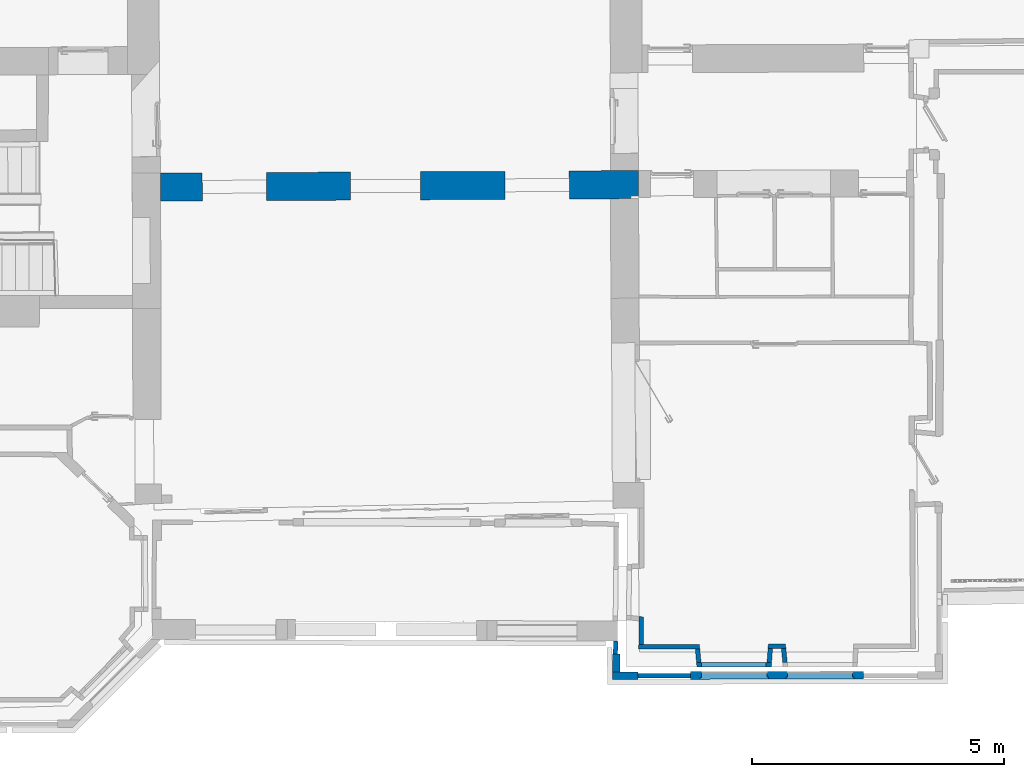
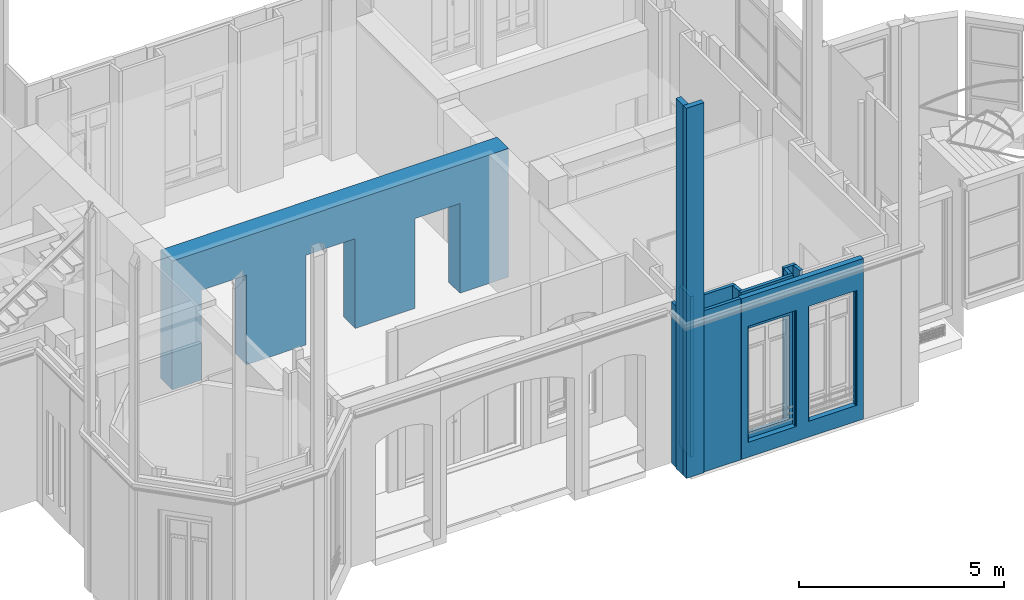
# One storey, part 12 of 97: 13 walls, 6 openings.
"""IFC2X3 building model written with IfcOpenShell, lengths in centimetres."""

from ifc_helpers import new_model, entity, si_unit, converted_unit, direction, frame, origin, origin_with_axes, place, context, subcontext, project, spatial, polyline, outline, extrude, clip, bounded_halfspace, faceted_brep, shape, material, layer, layer_set, layer_usage, type_object, element, save


model = new_model("IFC2X3")

# Units and contexts
model_context = context("Model", 3, precision=0.0001, world=origin(), true_north=direction((0.225632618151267, 0.974212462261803, 0.0)))
body_context = subcontext(model_context, "Body", "Model", "MODEL_VIEW")
footprint_context = subcontext(model_context, "FootPrint", "Model", "MODEL_VIEW")
profile_context = subcontext(model_context, "Profile", "Model", "MODEL_VIEW")
ifc_project = project(units=[si_unit("LENGTHUNIT", "METRE", prefix="CENTI"), si_unit("AREAUNIT", "SQUARE_METRE", prefix="CENTI"), si_unit("VOLUMEUNIT", "CUBIC_METRE", prefix="CENTI"), converted_unit("PLANEANGLEUNIT", "DEGREE", entity("IfcRatioMeasure", 0.0174532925), si_unit("PLANEANGLEUNIT", "RADIAN"), dimensions=[0, 0, 0, 0, 0, 0, 0])], contexts=[model_context])

# Site, building, storey
site_placement = place(None, origin_with_axes())
site = spatial("IfcSite", under=ifc_project, at=site_placement, Name="Default Site", CompositionType="ELEMENT")
building_placement = place(site_placement, origin_with_axes())
building = spatial("IfcBuilding", under=site, at=building_placement, Name="Default Building", CompositionType="ELEMENT")
storey_placement = place(building_placement, origin_with_axes())
storey = spatial("IfcBuildingStorey", under=building, at=storey_placement, Name="Rez-de-chaussée", CompositionType="ELEMENT", Elevation=0.0)

# Wall, opening
ifc_material = material(Name="<aucun>")
ifc_layer_1 = layer(ifc_material, 9.0)
ifc_layer_set_1 = layer_set([ifc_layer_1], Name="default")
ifc_layer_usage_1 = layer_usage(ifc_layer_set_1, "AXIS2", "POSITIVE", -4.5)
wall_type_1 = type_object("IfcWallType", Name="default 90", PredefinedType="NOTDEFINED", material=ifc_layer_set_1)
wall_1_placement = place(storey_placement, frame((411.196494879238, -1020.73846299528, 0.0128503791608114), z_axis=(0.0, 0.0, 1.0), x_axis=(0.999999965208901, 0.000263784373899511, 0.0)))
wall_1 = element("IfcWallStandardCase", 1, at=wall_1_placement, inside=storey, type_object=wall_type_1, material=ifc_layer_usage_1, Name="Enveloppe 768435", context=body_context, shape_type="SweptSolid", body=[
    extrude(outline(polyline([(-4.87621051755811, 3.81736189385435), (-4.09920490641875, -4.49999999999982), (143.535233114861, -4.50000000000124), (144.15018441, 3.8380241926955), (135.174562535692, 4.49999999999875), (2.43100603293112, 4.50044004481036), (-4.87621051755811, 3.81736189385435)])), frame((0.0, 0.0, -2.71050543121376e-18), z_axis=(0.0, 0.0, 1.0), x_axis=(1.0, 0.0, 0.0)), (0.0, 0.0, 1.0), 477.795358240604),
])
opening_1_placement = place(wall_1_placement, frame((5.34689146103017, 0.0, 54.0313409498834), z_axis=(0.0, 0.0, 1.0), x_axis=(1.0, -9.8671613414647e-15, 0.0)))
cartesian_point_1 = entity("IfcCartesianPoint", [8.88178419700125e-14, 0.0, 309.0])
cartesian_point_2 = entity("IfcCartesianPoint", [127.567440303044, 4.49999999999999])
element("IfcOpeningElement", 2, at=opening_1_placement, cuts=wall_1, Name="4294966461_11", ObjectType="Opening", shapes=[
    shape(body_context, "Body", "SweptSolid", [extrude(outline(polyline([(0.0, 309.0), (0.0, 0.0), (127.567440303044, 0.0), (127.567440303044, 309.0), (0.0, 309.0)])), frame((0.0, 14.5, 0.0), z_axis=(0.0, -1.0, 0.0), x_axis=(1.0, 0.0, 0.0)), (0.0, 0.0, 1.0), 29.0)]),
    shape(profile_context, "Profile", "GeometricCurveSet", [entity("IfcGeometricCurveSet", [entity("IfcPolyline", [cartesian_point_1, entity("IfcCartesianPoint", [8.88178419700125e-14, 0.0, 0.0]), entity("IfcCartesianPoint", [127.567440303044, 0.0, 0.0]), entity("IfcCartesianPoint", [127.567440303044, 0.0, 309.0]), cartesian_point_1])])]),
    shape(footprint_context, "FootPrint", "GeometricCurveSet", [entity("IfcGeometricCurveSet", [entity("IfcPolyline", [cartesian_point_2, entity("IfcCartesianPoint", [0.0, 4.49999999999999]), entity("IfcCartesianPoint", [1.77635683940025e-13, -4.49999999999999]), entity("IfcCartesianPoint", [127.567440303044, -4.49999999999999]), cartesian_point_2])])]),
])

# Walls
ifc_layer_usage_2 = layer_usage(ifc_layer_set_1, "AXIS2", "POSITIVE", -4.5)
wall_2_placement = place(storey_placement, frame((295.921035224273, -980.182738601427, 0.0128503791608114), z_axis=(0.0, 0.0, 1.0), x_axis=(0.00566162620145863, 0.999983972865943, 0.0)))
element("IfcWallStandardCase", 3, at=wall_2_placement, inside=storey, type_object=wall_type_1, material=ifc_layer_usage_2, Name="Enveloppe 768826", context=body_context, shape_type="SweptSolid", body=[
    extrude(outline(polyline([(-0.0498799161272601, 4.4999999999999), (-4.18016892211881e-06, -4.50000000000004), (54.4047484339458, -4.49999999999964), (55.4052369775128, 4.50000000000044), (-0.0498799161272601, 4.4999999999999)])), origin_with_axes(), (0.0, 0.0, 1.0), 477.795358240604),
])
ifc_layer_usage_3 = layer_usage(ifc_layer_set_1, "AXIS2", "POSITIVE", -4.5)
wall_3_placement = place(storey_placement, frame((582.191625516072, -1016.64285464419, 0.0128503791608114), z_axis=(0.0, 0.0, 1.0), x_axis=(-0.100150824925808, 0.994972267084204, 0.0)))
element("IfcWallStandardCase", 4, at=wall_3_placement, inside=storey, type_object=wall_type_1, material=ifc_layer_usage_3, Name="Enveloppe 768249", context=body_context, shape_type="SweptSolid", body=[
    extrude(outline(polyline([(28.6324180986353, 4.50000000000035), (0.903514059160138, 4.49999999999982), (1.77635683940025e-13, -4.49999999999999), (27.7149950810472, -4.49999999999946), (28.6324180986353, 4.50000000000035)])), frame((0.0, 0.0, 2.71050543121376e-18), z_axis=(0.0, 0.0, 1.0), x_axis=(1.0, 0.0, 0.0)), (0.0, 0.0, 1.0), 477.795358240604),
])
ifc_layer_usage_4 = layer_usage(ifc_layer_set_1, "AXIS2", "POSITIVE", -4.5)
wall_4_placement = place(storey_placement, frame((550.857763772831, -1016.53261029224, 0.0128503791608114), z_axis=(0.0, 0.0, 1.0), x_axis=(0.0732897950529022, 0.997310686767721, 0.0)))
element("IfcWallStandardCase", 5, at=wall_4_placement, inside=storey, type_object=wall_type_1, material=ifc_layer_usage_4, Name="Enveloppe 768434", context=body_context, shape_type="SweptSolid", body=[
    extrude(outline(polyline([(0.0, 4.4999999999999), (1.77635683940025e-13, -4.50000000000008), (28.355657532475, -4.50000000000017), (27.705725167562, 4.4999999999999), (0.0, 4.4999999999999)])), origin_with_axes(), (0.0, 0.0, 1.0), 477.795358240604),
])
ifc_layer_usage_5 = layer_usage(ifc_layer_set_1, "AXIS2", "POSITIVE", -4.5)
wall_5_placement = place(storey_placement, frame((410.799658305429, -1016.50263939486, 0.0128503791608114), z_axis=(0.0, 0.0, 1.0), x_axis=(-0.0932773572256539, 0.995640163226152, 0.0)))
element("IfcWallStandardCase", 6, at=wall_5_placement, inside=storey, type_object=wall_type_1, material=ifc_layer_usage_5, Name="Enveloppe 767814", context=body_context, shape_type="SweptSolid", body=[
    extrude(outline(polyline([(27.8230786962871, 4.49999999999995), (-1.77635683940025e-13, 4.49999999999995), (0.000438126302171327, -2.83907414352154), (-0.155167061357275, -4.49999999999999), (26.9798969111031, -4.50010115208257), (27.8230786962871, 4.49999999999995)])), origin_with_axes(), (0.0, 0.0, 1.0), 477.795358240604),
])
ifc_layer_usage_6 = layer_usage(ifc_layer_set_1, "AXIS2", "POSITIVE", -4.5)
wall_6_placement = place(storey_placement, frame((575.83811399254, -984.106322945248, 0.0128503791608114), z_axis=(0.0, 0.0, 1.0), x_axis=(-0.999999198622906, 0.00126599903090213, 0.0)))
element("IfcWallStandardCase", 7, at=wall_6_placement, inside=storey, type_object=wall_type_1, material=ifc_layer_usage_6, Name="Enveloppe 768034", context=body_context, shape_type="SweptSolid", body=[
    extrude(outline(polyline([(27.4320263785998, 4.49999999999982), (-8.06091056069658, 4.49999999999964), (-7.14348754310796, -4.50000000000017), (26.7820940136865, -4.50000000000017), (27.4320263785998, 4.49999999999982)])), frame((0.0, 0.0, -2.71050543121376e-18), z_axis=(0.0, 0.0, 1.0), x_axis=(1.0, 0.0, 0.0)), (0.0, 0.0, 1.0), 477.795358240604),
])
ifc_layer_usage_7 = layer_usage(ifc_layer_set_1, "AXIS2", "POSITIVE", -4.5)
wall_7_placement = place(storey_placement, frame((412.090234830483, -984.721616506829, 0.0128503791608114), z_axis=(0.0, 0.0, 1.0), x_axis=(-0.999999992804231, 0.000119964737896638, 0.0)))
element("IfcWallStandardCase", 8, at=wall_7_placement, inside=storey, type_object=wall_type_1, material=ifc_layer_usage_7, Name="Enveloppe 767345", context=body_context, shape_type="SweptSolid", body=[
    extrude(outline(polyline([(120.719826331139, 4.50000000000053), (-0.673831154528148, 4.49891557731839), (0.17043019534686, -4.49999999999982), (120.669950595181, -4.49999999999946), (120.719826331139, 4.50000000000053)])), frame((0.0, 0.0, -2.71050543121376e-18), z_axis=(0.0, 0.0, 1.0), x_axis=(1.0, 0.0, 0.0)), (0.0, 0.0, 1.0), 477.795358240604),
])
ifc_layer_usage_8 = layer_usage(ifc_layer_set_1, "AXIS2", "POSITIVE", -4.5)
wall_8_placement = place(storey_placement, frame((245.047610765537, -999.445140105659, -1.99999999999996), z_axis=(0.0, 0.0, 1.0), x_axis=(0.0184265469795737, 0.999830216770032, 0.0)))
element("IfcWallStandardCase", 9, at=wall_8_placement, inside=storey, type_object=wall_type_1, material=ifc_layer_usage_8, Name="Enveloppe 364413", context=body_context, shape_type="Clipping", body=[
    clip(extrude(outline(polyline([(0.208801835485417, 4.49999999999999), (0.401087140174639, -4.50000000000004), (25.4028281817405, -4.49999999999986), (25.4028281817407, -3.39544561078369), (25.5112344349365, -3.39344771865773), (25.4028281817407, 4.50000000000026), (0.208801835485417, 4.49999999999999)])), origin_with_axes(), (0.0, 0.0, 1.0), 479.808208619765), bounded_halfspace(frame((25.5112587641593, -3.39476782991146, 2.01285037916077), z_axis=(0.0, 0.0, 1.0), x_axis=(-0.999980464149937, -0.00625070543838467, 0.0)), True, frame((25.5112587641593, -3.39476782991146, 2.01285037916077), z_axis=(0.0, 0.0, 1.0), x_axis=(1.0, 0.0, 0.0)), polyline([(-0.108430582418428, -0.00067778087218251), (-0.108430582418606, 7.89476782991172), (1.77635683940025e-13, 4.44089209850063e-14), (-0.108430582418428, -0.00067778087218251)]))),
])
ifc_layer_usage_9 = layer_usage(ifc_layer_set_1, "AXIS2", "POSITIVE", -4.5)
wall_9_placement = place(storey_placement, frame((289.44872670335, -1043.06089597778, -1.99999999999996), z_axis=(0.0, 0.0, 1.0), x_axis=(0.99999978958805, 0.000648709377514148, 0.0)))
element("IfcWallStandardCase", 10, at=wall_9_placement, inside=storey, type_object=wall_type_1, material=ifc_layer_usage_9, Name="Enveloppe 364456", context=body_context, shape_type="Clipping", body=[
    clip(extrude(outline(polyline([(0.0558761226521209, 4.50006487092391), (0.066720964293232, -4.49994216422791), (104.453988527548, -4.50000000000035), (104.443143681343, 4.49999999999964), (0.0558761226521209, 4.50006487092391)])), frame((0.0, 0.0, -3.46944695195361e-16), z_axis=(0.0, 0.0, 1.0), x_axis=(1.0, 0.0, 0.0)), (0.0, 0.0, 1.0), 479.808208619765), bounded_halfspace(frame((104.453988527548, -4.50000000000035, 2.01285037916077), z_axis=(0.0, 0.0, 1.0), x_axis=(-1.0, -6.29054317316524e-13, 0.0)), True, frame((104.453988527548, -4.50000000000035, 2.01285037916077), z_axis=(0.0, 0.0, 1.0), x_axis=(1.0, 0.0, 0.0)), polyline([(-0.0108448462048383, -1.77635683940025e-13), (-0.0108448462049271, 8.99999999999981), (4.44089209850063e-14, -1.77635683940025e-13), (-0.0108448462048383, -1.77635683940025e-13)]))),
])

# Wall, openings
ifc_layer_2 = layer(ifc_material, 15.0)
ifc_layer_set_2 = layer_set([ifc_layer_2], Name="default")
ifc_layer_usage_10 = layer_usage(ifc_layer_set_2, "AXIS2", "POSITIVE", -7.5)
wall_type_2 = type_object("IfcWallType", Name="default 150", PredefinedType="NOTDEFINED", material=ifc_layer_set_2)
wall_10_placement = place(storey_placement, frame((393.895752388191, -1042.17399512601, 0.0128503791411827), z_axis=(0.0, 0.0, 1.0), x_axis=(0.999998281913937, 0.00185369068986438, 0.0)))
wall_10 = element("IfcWallStandardCase", 11, at=wall_10_placement, inside=storey, type_object=wall_type_2, material=ifc_layer_usage_10, Name="Enveloppe 365506", context=body_context, shape_type="SweptSolid", body=[
    extrude(outline(polyline([(0.0, 7.49999999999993), (4.44089209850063e-14, -7.49999999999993), (344.030799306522, -7.49999999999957), (344.030799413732, -5.7336421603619), (344.119954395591, -5.73380742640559), (344.130799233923, 3.26618603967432), (344.030799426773, 3.26637140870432), (344.030799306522, 7.50000000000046), (0.0, 7.49999999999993)])), frame((0.0, 0.0, 1.96287457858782e-11), z_axis=(0.0, 0.0, 1.0), x_axis=(1.0, 0.0, 0.0)), (0.0, 0.0, 1.0), 477.795358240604),
])
opening_2_placement = place(wall_10_placement, frame((189.786993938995, 4.54747350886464e-13, 47.157276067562), z_axis=(0.0, 0.0, 1.0), x_axis=(-1.0, -1.22818422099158e-15, 0.0)))
cartesian_point_3 = entity("IfcCartesianPoint", [0.0, 1.77635683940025e-13, 342.067063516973])
cartesian_point_4 = entity("IfcCartesianPoint", [-135.922860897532, -7.49999999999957])
element("IfcOpeningElement", 12, at=opening_2_placement, cuts=wall_10, Name="Baie 379476", ObjectType="Opening", shapes=[
    shape(body_context, "Body", "Brep", [faceted_brep([(-3.00000254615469, -27.5000207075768, 342.067062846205), (-132.922854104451, -27.5000207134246, 342.067062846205), (-132.922854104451, -27.5000207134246, -8.56228976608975e-09), (-3.00000254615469, -27.5000207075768, -8.56228976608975e-09), (-1.89126596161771e-05, 27.4999677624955, -8.56228976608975e-09), (-135.922875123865, 27.4999677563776, -8.56228976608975e-09), (-135.922875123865, 27.4999677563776, 342.067062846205), (-1.89126596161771e-05, 27.4999677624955, 342.067062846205), (-3.00000254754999, 3.49997913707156, -8.56228976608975e-09), (-3.00000254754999, 3.49997913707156, 342.067062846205), (-2.99999701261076, 3.49997913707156, 342.067062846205), (-2.99999701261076, 3.49997913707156, -8.56228976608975e-09), (-1.84395823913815e-05, 3.49997913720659, -8.56228976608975e-09), (-1.84395823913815e-05, 3.49997913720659, 342.067062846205), (-1.84395823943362e-05, 3.50004478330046, 342.067062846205), (-1.84395823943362e-05, 3.50004478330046, -8.56228976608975e-09), (-1.84406626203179e-05, 27.4999677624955, -8.56228976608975e-09), (-1.84406626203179e-05, 27.4999677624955, 342.067062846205), (-132.922854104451, -27.4999866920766, -8.56228976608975e-09), (-132.922848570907, 3.50001315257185, -8.56228976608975e-09), (-135.922874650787, 3.50004296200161, -8.56228976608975e-09), (-135.922875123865, 27.4999659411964, -8.56228976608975e-09), (-132.922854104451, -27.4999866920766, 342.067062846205), (-132.922854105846, 3.50001315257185, 342.067062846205), (-132.922854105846, 3.50001315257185, -8.56228976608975e-09), (-132.922848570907, 3.50001315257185, 342.067062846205), (-135.922874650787, 3.50001315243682, 342.067062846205), (-135.922874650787, 3.50001315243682, -8.56228976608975e-09), (-135.922874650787, 3.50004296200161, 342.067062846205), (-135.922874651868, 27.4999659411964, 342.067062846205), (-135.922874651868, 27.4999659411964, -8.56228976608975e-09), (-135.922875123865, 27.4999659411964, 342.067062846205)], [[[0, 1, 2, 3]], [[4, 5, 6, 7]], [[0, 3, 8, 9]], [[10, 11, 12, 13]], [[14, 15, 16, 17]], [[3, 18, 19, 20, 21, 4, 15, 11]], [[18, 22, 23, 24]], [[19, 25, 26, 27]], [[20, 28, 29, 30]], [[10, 14, 7, 31, 28, 25, 22, 0]]])]),
    shape(profile_context, "Profile", "GeometricCurveSet", [entity("IfcGeometricCurveSet", [entity("IfcPolyline", [cartesian_point_3, entity("IfcCartesianPoint", [0.0, 1.77635683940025e-13, -5.55111512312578e-15]), entity("IfcCartesianPoint", [-135.922860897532, 1.77635683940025e-13, -5.55111512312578e-15]), entity("IfcCartesianPoint", [-135.922860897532, 1.77635683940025e-13, 342.067063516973]), cartesian_point_3])])]),
    shape(footprint_context, "FootPrint", "GeometricCurveSet", [entity("IfcGeometricCurveSet", [entity("IfcPolyline", [cartesian_point_4, entity("IfcCartesianPoint", [0.0, -7.49999999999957]), entity("IfcCartesianPoint", [-8.88178419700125e-14, 7.50000000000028]), entity("IfcCartesianPoint", [-135.922860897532, 7.50000000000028]), cartesian_point_4])])]),
])
opening_3_placement = place(wall_10_placement, frame((19.2917510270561, 0.0, 44.4614488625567), z_axis=(0.0, 0.0, 1.0), x_axis=(-1.0, -1.22818422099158e-15, 0.0)))
cartesian_point_5 = entity("IfcCartesianPoint", [-8.88178419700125e-14, 0.0, 345.200607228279])
cartesian_point_6 = entity("IfcCartesianPoint", [-136.420914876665, -7.49999999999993])
element("IfcOpeningElement", 13, at=opening_3_placement, cuts=wall_10, Name="Baie 379475", ObjectType="Opening", shapes=[
    shape(body_context, "Body", "Brep", [faceted_brep([(-3.00001463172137, -27.500018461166, 345.200602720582), (-133.420923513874, -27.5000184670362, 345.200602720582), (-133.420923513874, -27.5000184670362, -1.47978074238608e-06), (-3.00001463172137, -27.500018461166, -1.47978074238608e-06), (1.66854074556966e-05, 27.4999699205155, -1.47978074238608e-06), (-136.420896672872, 27.4999699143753, -1.47978074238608e-06), (-136.420896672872, 27.4999699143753, 345.200602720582), (1.66854074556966e-05, 27.4999699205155, 345.200602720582), (-3.00001463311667, 3.49998138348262, -1.47978074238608e-06), (-3.00001463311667, 3.49998138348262, 345.200602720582), (-3.00000909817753, 3.49998138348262, 345.200602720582), (-3.00000909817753, 3.49998138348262, -1.47978074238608e-06), (1.71584846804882e-05, 3.49998138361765, -1.47978074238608e-06), (1.71584846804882e-05, 3.49998138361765, 345.200602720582), (1.71584846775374e-05, 3.50004694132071, 345.200602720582), (1.71584846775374e-05, 3.50004694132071, -1.47978074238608e-06), (1.71574044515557e-05, 27.4999699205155, -1.47978074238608e-06), (1.71574044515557e-05, 27.4999699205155, 345.200602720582), (-133.420923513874, -27.50001487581, -1.47978074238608e-06), (-133.42091798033, 3.49998496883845, -1.47978074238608e-06), (-136.420896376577, 3.50001468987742, -1.47978074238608e-06), (-136.420896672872, 27.5000330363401, -1.47978074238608e-06), (-133.420923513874, -27.50001487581, 345.200602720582), (-133.42092351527, 3.49998496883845, 345.200602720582), (-133.42092351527, 3.49998496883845, -1.47978074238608e-06), (-133.42091798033, 3.49998496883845, 345.200602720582), (-136.420896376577, 3.49998496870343, 345.200602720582), (-136.420896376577, 3.49998496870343, -1.47978074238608e-06), (-136.420896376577, 3.50001468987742, 345.200602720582), (-136.420896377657, 27.5000330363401, 345.200602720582), (-136.420896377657, 27.5000330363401, -1.47978074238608e-06), (-136.420896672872, 27.5000330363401, 345.200602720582)], [[[0, 1, 2, 3]], [[4, 5, 6, 7]], [[0, 3, 8, 9]], [[10, 11, 12, 13]], [[14, 15, 16, 17]], [[3, 18, 19, 20, 21, 4, 15, 11]], [[18, 22, 23, 24]], [[19, 25, 26, 27]], [[20, 28, 29, 30]], [[10, 14, 7, 31, 28, 25, 22, 0]]])]),
    shape(profile_context, "Profile", "GeometricCurveSet", [entity("IfcGeometricCurveSet", [entity("IfcPolyline", [cartesian_point_5, entity("IfcCartesianPoint", [-8.88178419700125e-14, 0.0, 0.0]), entity("IfcCartesianPoint", [-136.420914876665, -1.77635683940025e-13, 0.0]), entity("IfcCartesianPoint", [-136.420914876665, -1.77635683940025e-13, 345.200607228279]), cartesian_point_5])])]),
    shape(footprint_context, "FootPrint", "GeometricCurveSet", [entity("IfcGeometricCurveSet", [entity("IfcPolyline", [cartesian_point_6, entity("IfcCartesianPoint", [-8.88178419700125e-14, -7.50000000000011]), entity("IfcCartesianPoint", [-8.88178419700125e-14, 7.49999999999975]), entity("IfcCartesianPoint", [-136.420914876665, 7.49999999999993]), cartesian_point_6])])]),
])

# Walls
ifc_layer_usage_11 = layer_usage(ifc_layer_set_2, "AXIS2", "POSITIVE", -7.5)
wall_11_placement = place(storey_placement, frame((238.860075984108, -1042.46138380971, -1.99999999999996), z_axis=(0.0, 0.0, 1.0), x_axis=(0.999998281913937, 0.0018536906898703, 0.0)))
element("IfcWallStandardCase", 14, at=wall_11_placement, inside=storey, type_object=wall_type_2, material=ifc_layer_usage_11, Name="Enveloppe 364581", context=body_context, shape_type="Clipping", body=[
    clip(extrude(outline(polyline([(0.000443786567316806, 7.49999999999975), (0.0166513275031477, -7.49999999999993), (50.6487509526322, -7.49999999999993), (50.6487510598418, -5.19330614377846), (50.7379060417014, -5.19347140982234), (50.7487508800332, 3.8065220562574), (50.6487510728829, 3.80670742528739), (50.6487509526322, 7.49999999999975), (0.000443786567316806, 7.49999999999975)])), origin_with_axes(), (0.0, 0.0, 1.0), 1100.91037418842), bounded_halfspace(frame((50.6487509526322, -5.19336397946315, 479.808208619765), z_axis=(0.0, 0.0, 1.0), x_axis=(6.8289558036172e-15, 1.0, 0.0)), True, frame((50.6487509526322, -5.19336397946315, 479.808208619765), z_axis=(0.0, 0.0, 1.0), x_axis=(1.0, 0.0, 0.0)), polyline([(0.0, 0.0), (1.33226762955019e-13, 9.0000065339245), (0.0999999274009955, 8.99988603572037), (0.0891550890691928, -0.000107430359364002), (0.0, 0.0)]))),
])
ifc_layer_usage_12 = layer_usage(ifc_layer_set_2, "AXIS2", "POSITIVE", -7.5)
wall_12_placement = place(storey_placement, frame((246.346584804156, -1034.93938944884, -1.99999999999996), z_axis=(0.0, 0.0, 1.0), x_axis=(-0.00293418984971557, 0.999995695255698, 0.0)))
element("IfcWallStandardCase", 15, at=wall_12_placement, inside=storey, type_object=wall_type_2, material=ifc_layer_usage_12, Name="Enveloppe 364866", context=body_context, shape_type="Clipping", body=[
    clip(clip(clip(clip(clip(extrude(outline(polyline([(35.8027828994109, 7.49999999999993), (-5.32907051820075e-13, 7.49999999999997), (-0.0162075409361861, -7.49999999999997), (35.8027828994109, -7.50000000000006), (35.8027828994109, -4.41979270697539), (36.0960029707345, 5.49843510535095), (35.8027828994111, 5.50799329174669), (35.8027828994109, 7.49999999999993)])), frame((0.0, 0.0, 3.46944695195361e-16), z_axis=(0.0, 0.0, 1.0), x_axis=(1.0, 0.0, 0.0)), (0.0, 0.0, 1.0), 1100.91037418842), bounded_halfspace(frame((36.0626595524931, 4.57645451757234, 479.808208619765), z_axis=(0.0, 0.0, 1.0), x_axis=(-0.0288751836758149, -0.999583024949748, 0.0)), True, frame((36.0626595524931, 4.57645451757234, 479.808208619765), z_axis=(0.0, 0.0, 1.0), x_axis=(1.0, 0.0, 0.0)), polyline([(-0.259876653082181, -7.88917352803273), (-0.259876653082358, 0.00750711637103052), (-1.77635683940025e-13, 4.44089209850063e-14), (-0.22791608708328, -7.88985636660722), (-0.259876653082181, -7.88917352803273)]))), bounded_halfspace(frame((35.8294208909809, -3.49765539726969, 479.808208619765), z_axis=(0.0, 0.0, 1.0), x_axis=(-0.0288751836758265, -0.999583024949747, 0.0)), True, frame((35.8294208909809, -3.49765539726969, 479.808208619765), z_axis=(0.0, 0.0, 1.0), x_axis=(1.0, 0.0, 0.0)), polyline([(-0.0266379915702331, -0.922137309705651), (-0.0266379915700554, 0.184936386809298), (0.00532257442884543, 0.184253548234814), (-0.0266379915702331, -0.922137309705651)]))), bounded_halfspace(frame((36.0960029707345, 5.49843510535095, 855.910374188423), z_axis=(0.0, 0.0, 1.0), x_axis=(-0.0325800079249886, -0.99946913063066, 0.0)), True, frame((36.0960029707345, 5.49843510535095, 855.910374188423), z_axis=(0.0, 0.0, 1.0), x_axis=(1.0, 0.0, 0.0)), polyline([(-0.293220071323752, -0.914473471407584), (-0.293220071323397, 0.00955818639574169), (-1.77635683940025e-13, 0.0), (-0.0333434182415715, -0.92198058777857), (-0.293220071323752, -0.914473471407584)]))), bounded_halfspace(frame((35.8027828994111, -3.49678707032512, 855.910374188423), z_axis=(0.0, 0.0, -1.0), x_axis=(0.999469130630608, -0.0325800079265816, 0.0)), True, frame((35.8027828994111, -3.49678707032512, 855.910374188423), z_axis=(0.0, 0.0, 1.0), x_axis=(1.0, 0.0, 0.0)), polyline([(0.0, 0.0), (0.0266379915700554, -0.00086832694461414), (0.234265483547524, 7.18665016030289), (0.0, 0.0)]))), bounded_halfspace(frame((35.8027828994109, -4.41979270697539, 855.910374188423), z_axis=(0.0, 0.0, -1.0), x_axis=(0.0288751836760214, 0.999583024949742, 0.0)), True, frame((35.8027828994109, -4.41979270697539, 855.910374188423), z_axis=(0.0, 0.0, 1.0), x_axis=(1.0, 0.0, 0.0)), polyline([(-1.77635683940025e-13, 4.44089209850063e-14), (0.0266379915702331, 0.922137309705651), (1.77635683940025e-13, 0.923005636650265), (-1.77635683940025e-13, 4.44089209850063e-14)]))),
])

# Wall, openings
ifc_layer_3 = layer(ifc_material, 55.8431457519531)
ifc_layer_set_3 = layer_set([ifc_layer_3], Name="default")
ifc_layer_usage_13 = layer_usage(ifc_layer_set_3, "AXIS2", "POSITIVE", -27.922)
wall_type_3 = type_object("IfcWallType", Name="default 558.431457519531", PredefinedType="NOTDEFINED", material=ifc_layer_set_3)
wall_13_placement = place(storey_placement, frame((-659.294938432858, -71.3772089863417, 0.0128503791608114), z_axis=(0.0, 0.0, 1.0), x_axis=(0.999985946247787, 0.00530163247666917, 0.0)))
wall_13 = element("IfcWallStandardCase", 16, at=wall_13_placement, inside=storey, type_object=wall_type_3, material=ifc_layer_usage_13, Name="Enveloppe 2756", context=body_context, shape_type="Clipping", body=[
    clip(clip(extrude(outline(polyline([(0.338657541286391, 27.9215723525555), (0.191635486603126, -27.9215723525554), (950.148808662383, -27.9215723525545), (950.146773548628, -25.2962195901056), (950.419547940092, -25.2976657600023), (950.653836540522, 27.9215723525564), (0.338657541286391, 27.9215723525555)])), frame((0.0, 0.0, -5.42101086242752e-18), z_axis=(0.0, 0.0, 1.0), x_axis=(1.0, 0.0, 0.0)), (0.0, 0.0, 1.0), 382.495358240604), bounded_halfspace(frame((950.419547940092, -25.2976657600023, 277.995358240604), z_axis=(0.0, 0.0, -1.0), x_axis=(0.00440228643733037, 0.999990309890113, 0.0)), True, frame((950.419547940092, -25.2976657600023, 277.995358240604), z_axis=(0.0, 0.0, 1.0), x_axis=(1.0, 0.0, 0.0)), polyline([(-0.292417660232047, 25.3213308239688), (-0.272775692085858, 0.00120084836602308), (1.77635683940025e-13, -1.11022302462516e-14), (0.23428860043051, 53.2192381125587), (-0.171422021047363, 53.2192381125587), (-0.165660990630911, 25.3214133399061), (-0.292417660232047, 25.3213308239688)]))), bounded_halfspace(frame((950.25388694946, 0.0237475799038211, 380.695358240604), z_axis=(0.0, 0.0, -1.0), x_axis=(-0.000206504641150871, 0.999999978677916, 0.0)), True, frame((950.25388694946, 0.0237475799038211, 380.695358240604), z_axis=(0.0, 0.0, 1.0), x_axis=(1.0, 0.0, 0.0)), polyline([(-0.148398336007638, 27.8978247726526), (-0.12675666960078, -8.25159373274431e-05), (3.5527136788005e-13, -1.11022302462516e-14), (-0.00576103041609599, 27.8978247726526), (-0.148398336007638, 27.8978247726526)]))),
])
opening_4_placement = place(wall_13_placement, frame((83.0885529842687, 8.5265128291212e-14, 1.27673913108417e-13), z_axis=(0.0, 0.0, 1.0), x_axis=(-1.0, -9.79251402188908e-16, 0.0)))
cartesian_point_7 = entity("IfcCartesianPoint", [0.0, 0.0, 267.0])
cartesian_point_8 = entity("IfcCartesianPoint", [-127.546644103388, -27.9215723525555])
element("IfcOpeningElement", 17, at=opening_4_placement, cuts=wall_13, Name="Baie 30037", ObjectType="Opening", shapes=[
    shape(body_context, "Body", "SweptSolid", [extrude(outline(polyline([(-8.88178419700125e-14, 267.0), (-8.88178419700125e-14, 0.0), (127.546644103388, 0.0), (127.546644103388, 267.0), (-8.88178419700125e-14, 267.0)])), frame((0.0, -37.9215723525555, 0.0), z_axis=(0.0, 1.0, 0.0), x_axis=(-1.0, 0.0, 0.0)), (0.0, 0.0, 1.0), 75.8431447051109)]),
    shape(profile_context, "Profile", "GeometricCurveSet", [entity("IfcGeometricCurveSet", [entity("IfcPolyline", [cartesian_point_7, entity("IfcCartesianPoint", [0.0, 0.0, 0.0]), entity("IfcCartesianPoint", [-127.546644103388, -1.11022302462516e-14, 0.0]), entity("IfcCartesianPoint", [-127.546644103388, -1.11022302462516e-14, 267.0]), cartesian_point_7])])]),
    shape(footprint_context, "FootPrint", "GeometricCurveSet", [entity("IfcGeometricCurveSet", [entity("IfcPolyline", [cartesian_point_8, entity("IfcCartesianPoint", [8.88178419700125e-14, -27.9215723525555]), entity("IfcCartesianPoint", [8.88178419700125e-14, 27.9215723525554]), entity("IfcCartesianPoint", [-127.546644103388, 27.9215723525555]), cartesian_point_8])])]),
])
opening_5_placement = place(wall_13_placement, frame((378.015609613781, 3.69482222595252e-13, 1.27673913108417e-13), z_axis=(0.0, 0.0, 1.0), x_axis=(-1.0, -9.79251402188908e-16, 0.0)))
cartesian_point_9 = entity("IfcCartesianPoint", [0.0, 0.0, 267.0])
cartesian_point_10 = entity("IfcCartesianPoint", [-139.135106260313, -27.9215723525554])
element("IfcOpeningElement", 18, at=opening_5_placement, cuts=wall_13, Name="Baie 30036", ObjectType="Opening", shapes=[
    shape(body_context, "Body", "SweptSolid", [extrude(outline(polyline([(0.0, 267.0), (0.0, 0.0), (139.135106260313, 0.0), (139.135106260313, 267.0), (0.0, 267.0)])), frame((0.0, -37.9215723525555, 0.0), z_axis=(0.0, 1.0, 0.0), x_axis=(-1.0, 0.0, 0.0)), (0.0, 0.0, 1.0), 75.8431447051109)]),
    shape(profile_context, "Profile", "GeometricCurveSet", [entity("IfcGeometricCurveSet", [entity("IfcPolyline", [cartesian_point_9, entity("IfcCartesianPoint", [0.0, 0.0, 0.0]), entity("IfcCartesianPoint", [-139.135106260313, 1.11022302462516e-14, 0.0]), entity("IfcCartesianPoint", [-139.135106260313, 1.11022302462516e-14, 267.0]), cartesian_point_9])])]),
    shape(footprint_context, "FootPrint", "GeometricCurveSet", [entity("IfcGeometricCurveSet", [entity("IfcPolyline", [cartesian_point_10, entity("IfcCartesianPoint", [0.0, -27.9215723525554]), entity("IfcCartesianPoint", [4.44089209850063e-14, 27.9215723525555]), entity("IfcCartesianPoint", [-139.135106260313, 27.9215723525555]), cartesian_point_10])])]),
])
opening_6_placement = place(wall_13_placement, frame((685.097637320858, 6.82121026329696e-13, 1.27673913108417e-13), z_axis=(0.0, 0.0, 1.0), x_axis=(-1.0, -9.79251402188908e-16, 0.0)))
cartesian_point_11 = entity("IfcCartesianPoint", [-2.77555756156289e-14, 1.11022302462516e-14, 267.0])
cartesian_point_12 = entity("IfcCartesianPoint", [-127.546644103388, -27.9215723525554])
element("IfcOpeningElement", 19, at=opening_6_placement, cuts=wall_13, Name="Baie 30035", ObjectType="Opening", shapes=[
    shape(body_context, "Body", "SweptSolid", [extrude(outline(polyline([(5.55111512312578e-14, 267.0), (5.55111512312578e-14, 0.0), (127.546644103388, 0.0), (127.546644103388, 267.0), (5.55111512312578e-14, 267.0)])), frame((0.0, -37.9215723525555, 0.0), z_axis=(0.0, 1.0, 0.0), x_axis=(-1.0, 0.0, 0.0)), (0.0, 0.0, 1.0), 75.8431447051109)]),
    shape(profile_context, "Profile", "GeometricCurveSet", [entity("IfcGeometricCurveSet", [entity("IfcPolyline", [cartesian_point_11, entity("IfcCartesianPoint", [-2.77555756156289e-14, 1.11022302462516e-14, 0.0]), entity("IfcCartesianPoint", [-127.546644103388, 0.0, 0.0]), entity("IfcCartesianPoint", [-127.546644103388, 0.0, 267.0]), cartesian_point_11])])]),
    shape(footprint_context, "FootPrint", "GeometricCurveSet", [entity("IfcGeometricCurveSet", [entity("IfcPolyline", [cartesian_point_12, entity("IfcCartesianPoint", [-5.55111512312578e-14, -27.9215723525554]), entity("IfcCartesianPoint", [-5.55111512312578e-15, 27.9215723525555]), entity("IfcCartesianPoint", [-127.546644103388, 27.9215723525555]), cartesian_point_12])])]),
])

save(model, "model.ifc")
